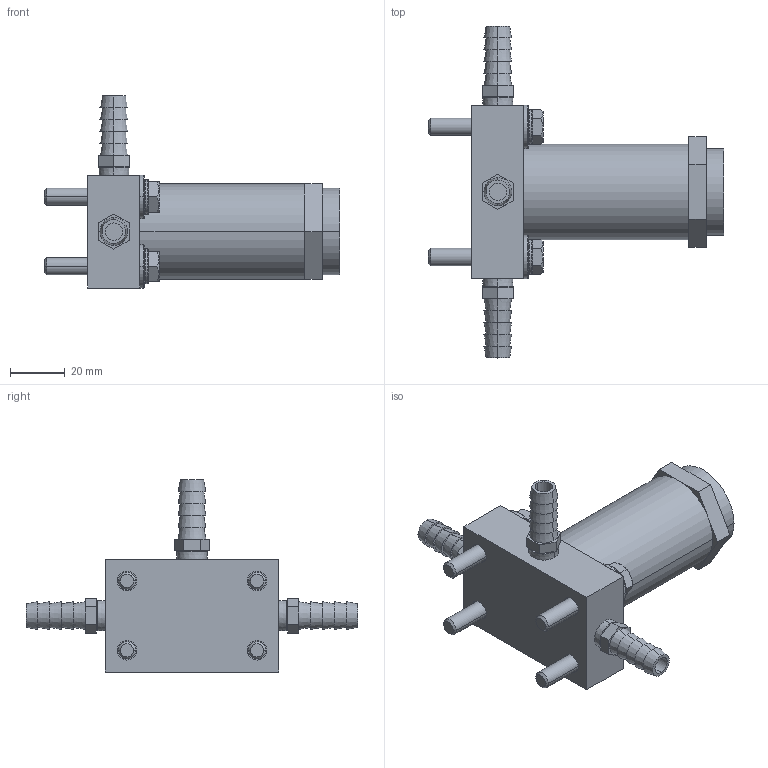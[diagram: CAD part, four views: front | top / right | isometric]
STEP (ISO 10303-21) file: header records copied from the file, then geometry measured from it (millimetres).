
FILE_DESCRIPTION((''),'2;1');
FILE_NAME('XL3_ASM','2017-08-24T',('jennifer.elliott'),('CenterLine (Windsor) Ltd - Automation Components Division'),'PRO/ENGINEER BY PARAMETRIC TECHNOLOGY CORPORATION, 2015030','PRO/ENGINEER BY PARAMETRIC TECHNOLOGY CORPORATION, 2015030','');
FILE_SCHEMA(('AUTOMOTIVE_DESIGN { 1 0 10303 214 1 1 1 1 }'));
Length unit declared in the file: inch
Products named in the file (17): PRT1576; PRT1577; PRT1578; PRT1579; PRT1580; PRT1581; PRT1582; PRT1583; PRT1584; PRT1585; ASM0022_ASM; PRT1586; PRT1587; PRT1588; PRT1589; PRT1590; XL3_ASM
Assembly tree (16 placements, depth 3):
  XL3_ASM
    PRT1576
    PRT1577
    PRT1578
    PRT1579
    PRT1580
    PRT1581
    ASM0022_ASM
      PRT1582
      PRT1583
      PRT1584
      PRT1585
    PRT1586
    PRT1587
    PRT1588
    PRT1589
    PRT1590
Bounding box: 107.95 x 121.41 x 70.23 mm (x, y, z)
Volume: 128319.6 mm3; surface area: 36126.7 mm2
Topology: 15 solids, 15 shells, 263 faces, 604 edges, 396 vertices
Faces by surface type: plane 119, cone 68, cylinder 52, torus 24
Entity records: 8919 total; most frequent: CARTESIAN_POINT 1798, DIRECTION 1392, ORIENTED_EDGE 1208, EDGE_CURVE 604, AXIS2_PLACEMENT_3D 576, VERTEX_POINT 396, EDGE_LOOP 310, CIRCLE 276
